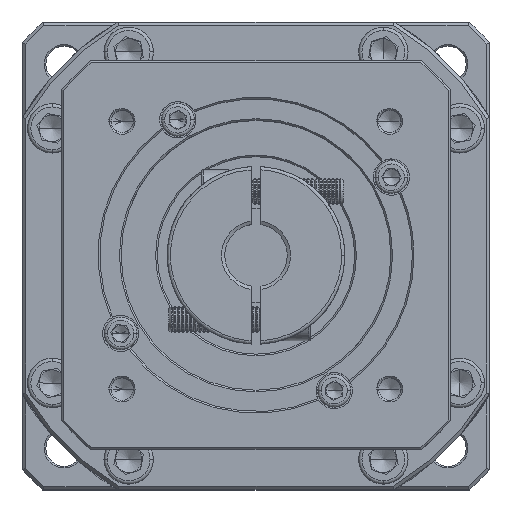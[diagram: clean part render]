
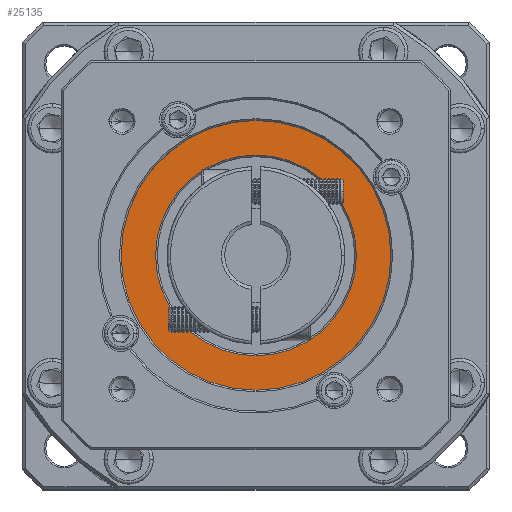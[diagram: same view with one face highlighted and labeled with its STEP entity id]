
A CAD part, top view. The second image highlights one B-rep face of the part: STEP entity #25135.
In plain terms, the highlighted planar face has unit normal (0, 0, 1).
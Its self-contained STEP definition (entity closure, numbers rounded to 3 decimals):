
#1596 = CARTESIAN_POINT ( 'NONE',  ( -118.929, 61.22, -2.092 ) ) ;
#1728 = DIRECTION ( 'NONE',  ( 1., 0., 0. ) ) ;
#2557 = CIRCLE ( 'NONE', #35291, 30.5 ) ;
#10142 = CARTESIAN_POINT ( 'NONE',  ( -118.929, 30.72, -2.092 ) ) ;
#10382 = ORIENTED_EDGE ( 'NONE', *, *, #115666, .T. ) ;
#10866 = VERTEX_POINT ( 'NONE', #1596 ) ;
#17359 = DIRECTION ( 'NONE',  ( 1., 0., 0. ) ) ;
#17572 = CIRCLE ( 'NONE', #64153, 41. ) ;
#25135 = ADVANCED_FACE ( 'NONE', ( #65035, #104337 ), #51341, .T. ) ;
#26187 = CARTESIAN_POINT ( 'NONE',  ( -118.929, 30.72, -2.092 ) ) ;
#28402 = EDGE_CURVE ( 'NONE', #44370, #48252, #17572, .T. ) ;
#30720 = CARTESIAN_POINT ( 'NONE',  ( -118.929, 30.72, -2.092 ) ) ;
#30765 = ORIENTED_EDGE ( 'NONE', *, *, #49162, .T. ) ;
#35291 = AXIS2_PLACEMENT_3D ( 'NONE', #30720, #100978, #92183 ) ;
#37383 = CARTESIAN_POINT ( 'NONE',  ( -118.929, 30.72, -2.092 ) ) ;
#40888 = AXIS2_PLACEMENT_3D ( 'NONE', #10142, #90922, #1728 ) ;
#44204 = CIRCLE ( 'NONE', #45574, 41. ) ;
#44370 = VERTEX_POINT ( 'NONE', #62241 ) ;
#45574 = AXIS2_PLACEMENT_3D ( 'NONE', #48071, #108722, #17359 ) ;
#47474 = DIRECTION ( 'NONE',  ( 0., -1., 0. ) ) ;
#48071 = CARTESIAN_POINT ( 'NONE',  ( -118.929, 30.72, -2.092 ) ) ;
#48252 = VERTEX_POINT ( 'NONE', #127350 ) ;
#49162 = EDGE_CURVE ( 'NONE', #48252, #44370, #44204, .T. ) ;
#51341 = PLANE ( 'NONE',  #40888 ) ;
#54188 = ORIENTED_EDGE ( 'NONE', *, *, #28402, .T. ) ;
#55853 = CIRCLE ( 'NONE', #122232, 30.5 ) ;
#62241 = CARTESIAN_POINT ( 'NONE',  ( -159.929, 30.72, -2.092 ) ) ;
#64153 = AXIS2_PLACEMENT_3D ( 'NONE', #26187, #107043, #96478 ) ;
#65035 = FACE_OUTER_BOUND ( 'NONE', #84187, .T. ) ;
#84187 = EDGE_LOOP ( 'NONE', ( #30765, #54188 ) ) ;
#90727 = CARTESIAN_POINT ( 'NONE',  ( -118.929, 0.22, -2.092 ) ) ;
#90922 = DIRECTION ( 'NONE',  ( 0., 0., 1. ) ) ;
#92183 = DIRECTION ( 'NONE',  ( 0., -1., 0. ) ) ;
#94651 = EDGE_LOOP ( 'NONE', ( #127485, #10382 ) ) ;
#96478 = DIRECTION ( 'NONE',  ( 1., 0., 0. ) ) ;
#100978 = DIRECTION ( 'NONE',  ( 0., 0., -1. ) ) ;
#104337 = FACE_BOUND ( 'NONE', #94651, .T. ) ;
#107043 = DIRECTION ( 'NONE',  ( 0., 0., 1. ) ) ;
#107679 = DIRECTION ( 'NONE',  ( 0., 0., -1. ) ) ;
#108722 = DIRECTION ( 'NONE',  ( 0., 0., 1. ) ) ;
#109562 = EDGE_CURVE ( 'NONE', #118900, #10866, #2557, .T. ) ;
#115666 = EDGE_CURVE ( 'NONE', #10866, #118900, #55853, .T. ) ;
#118900 = VERTEX_POINT ( 'NONE', #90727 ) ;
#122232 = AXIS2_PLACEMENT_3D ( 'NONE', #37383, #107679, #47474 ) ;
#127350 = CARTESIAN_POINT ( 'NONE',  ( -77.929, 30.72, -2.092 ) ) ;
#127485 = ORIENTED_EDGE ( 'NONE', *, *, #109562, .T. ) ;
